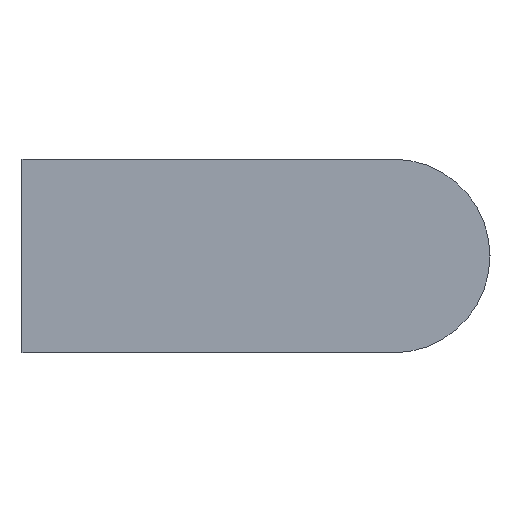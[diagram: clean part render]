
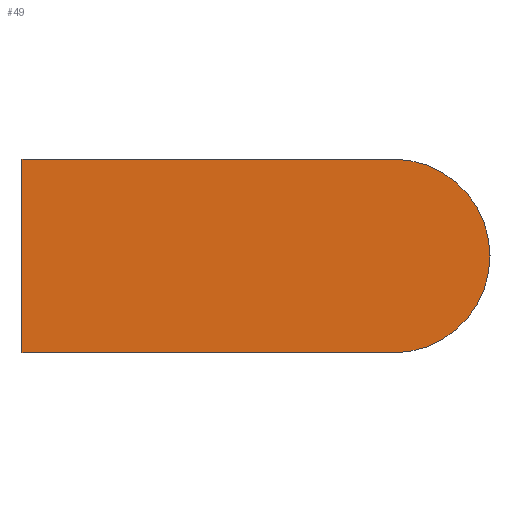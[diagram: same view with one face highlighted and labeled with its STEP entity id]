
A CAD part, left-side view. The second image highlights one B-rep face of the part: STEP entity #49.
In plain terms, the highlighted planar face has unit normal (-1, 0, 0).
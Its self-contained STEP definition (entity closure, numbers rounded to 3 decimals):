
#49 = ADVANCED_FACE( '', ( #105 ), #106, .F. );
#105 = FACE_OUTER_BOUND( '', #170, .T. );
#106 = PLANE( '', #171 );
#170 = EDGE_LOOP( '', ( #246, #247, #248, #249 ) );
#171 = AXIS2_PLACEMENT_3D( '', #250, #251, #252 );
#246 = ORIENTED_EDGE( '', *, *, #349, .F. );
#247 = ORIENTED_EDGE( '', *, *, #361, .F. );
#248 = ORIENTED_EDGE( '', *, *, #362, .F. );
#249 = ORIENTED_EDGE( '', *, *, #363, .F. );
#250 = CARTESIAN_POINT( '', ( -15., -28.04, 0. ) );
#251 = DIRECTION( '', ( 1., 0., 0. ) );
#252 = DIRECTION( '', ( 0., 0., -1. ) );
#349 = EDGE_CURVE( '', #400, #401, #402, .T. );
#361 = EDGE_CURVE( '', #420, #400, #421, .T. );
#362 = EDGE_CURVE( '', #422, #420, #423, .T. );
#363 = EDGE_CURVE( '', #401, #422, #424, .T. );
#400 = VERTEX_POINT( '', #473 );
#401 = VERTEX_POINT( '', #474 );
#402 = LINE( '', #475, #476 );
#420 = VERTEX_POINT( '', #500 );
#421 = LINE( '', #501, #502 );
#422 = VERTEX_POINT( '', #503 );
#423 = LINE( '', #504, #505 );
#424 = CIRCLE( '', #506, 7.32 );
#473 = CARTESIAN_POINT( '', ( -15., 0., 7.32 ) );
#474 = CARTESIAN_POINT( '', ( -15., -28.04, 7.32 ) );
#475 = CARTESIAN_POINT( '', ( -15., 0., 7.32 ) );
#476 = VECTOR( '', #552, 1000. );
#500 = CARTESIAN_POINT( '', ( -15., 0., -7.32 ) );
#501 = CARTESIAN_POINT( '', ( -15., 0., -7.32 ) );
#502 = VECTOR( '', #565, 1000. );
#503 = CARTESIAN_POINT( '', ( -15., -28.04, -7.32 ) );
#504 = CARTESIAN_POINT( '', ( -15., -28.04, -7.32 ) );
#505 = VECTOR( '', #566, 1000. );
#506 = AXIS2_PLACEMENT_3D( '', #567, #568, #569 );
#552 = DIRECTION( '', ( 0., -1., 0. ) );
#565 = DIRECTION( '', ( 0., 0., 1. ) );
#566 = DIRECTION( '', ( 0., 1., 0. ) );
#567 = CARTESIAN_POINT( '', ( -15., -28.04, 0. ) );
#568 = DIRECTION( '', ( 1., 0., 0. ) );
#569 = DIRECTION( '', ( 0., 0., -1. ) );
